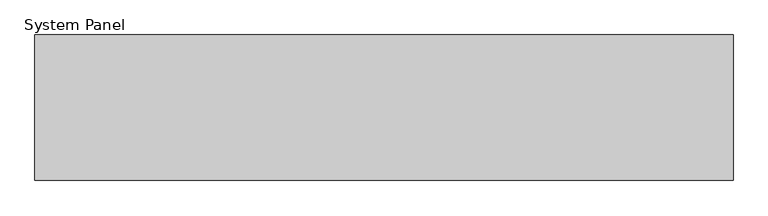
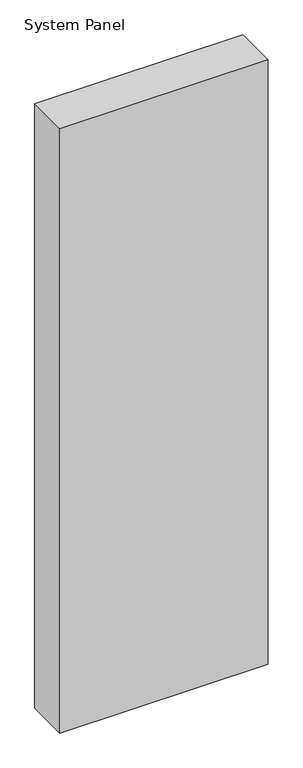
"""IFC4 building model written with IfcOpenShell, lengths in millimetres: plate geometry, System Panel : Equitilt_250mm_Plain_Surfmist."""

from ifc_helpers import new_model, si_unit, origin, origin_with_axes, place, context, project, spatial, polyline, outline, extrude, source, transform, mapped, element, save


def system_panel_42f74830(model_context):
    return source(origin(), model_context, "Body", "SweptSolid", [
        extrude(outline(polyline([(600.0, -250.0), (-600.0, -250.0), (-600.0, 0.0), (600.0, 0.0), (600.0, -250.0)])), origin_with_axes(), (0.0, 0.0, 1.0), 3679.9704237),
    ])


if __name__ == "__main__":
    model = new_model("IFC4")
    model_context = context("Model", 3, world=origin())
    ifc_project = project(units=[si_unit("LENGTHUNIT", "METRE", prefix="MILLI")], contexts=[model_context])
    site = spatial("IfcSite", under=ifc_project)
    building = spatial("IfcBuilding", under=site)
    placement = place(None, origin())
    system_panel_shape = system_panel_42f74830(model_context)
    element("IfcPlate", 1, ObjectType="System Panel : Equitilt_250mm_Plain_Surfmist", at=placement, inside=building, context=model_context, shape_type="MappedRepresentation", body=[
        mapped(system_panel_shape, transform((0.0, 0.0, 0.0), x_axis=(1.0, 0.0, 0.0), y_axis=(0.0, 1.0, 0.0), z_axis=(0.0, 0.0, 1.0))),
    ])
    save(model, "model.ifc")
